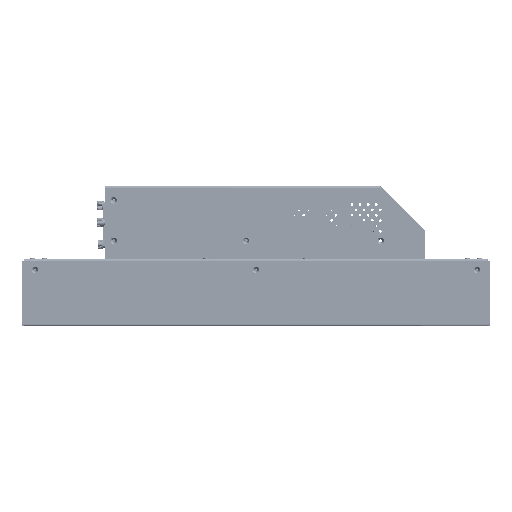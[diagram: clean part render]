
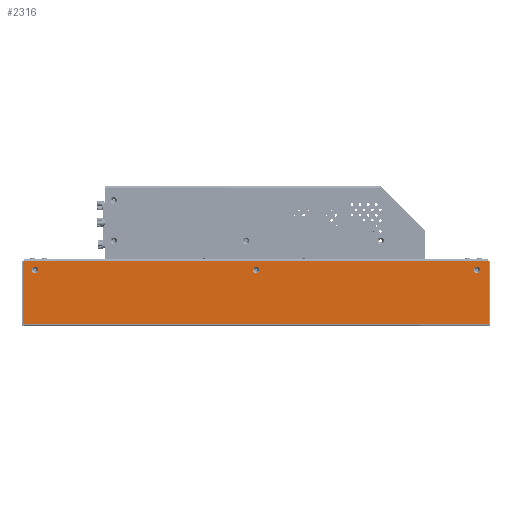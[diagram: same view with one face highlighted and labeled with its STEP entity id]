
A CAD part, front view. The second image highlights one B-rep face of the part: STEP entity #2316.
In plain terms, the highlighted planar face has unit normal (0, -1, 0).
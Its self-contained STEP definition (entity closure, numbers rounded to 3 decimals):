
#135=CARTESIAN_POINT('',(-259.25,-440.75,-34.));
#137=DIRECTION('',(1.,0.,0.));
#138=VECTOR('',#137,518.5);
#139=CARTESIAN_POINT('',(-259.25,-440.75,-34.));
#140=LINE('',#139,#138);
#141=CARTESIAN_POINT('',(259.25,-440.75,-34.));
#759=DIRECTION('',(0.,0.,-1.));
#760=VECTOR('',#759,70.5);
#761=CARTESIAN_POINT('',(259.25,-440.75,36.5));
#762=LINE('',#761,#760);
#763=CARTESIAN_POINT('',(-246.25,-440.75,26.5));
#764=DIRECTION('',(0.,-1.,0.));
#765=DIRECTION('',(1.,0.,0.));
#766=AXIS2_PLACEMENT_3D('',#763,#764,#765);
#768=CARTESIAN_POINT('',(-246.25,-440.75,26.5));
#769=DIRECTION('',(0.,-1.,0.));
#770=DIRECTION('',(-1.,0.,0.));
#771=AXIS2_PLACEMENT_3D('',#768,#769,#770);
#773=CARTESIAN_POINT('',(246.25,-440.75,26.5));
#774=DIRECTION('',(0.,-1.,0.));
#775=DIRECTION('',(1.,0.,0.));
#776=AXIS2_PLACEMENT_3D('',#773,#774,#775);
#778=CARTESIAN_POINT('',(246.25,-440.75,26.5));
#779=DIRECTION('',(0.,-1.,0.));
#780=DIRECTION('',(-1.,0.,0.));
#781=AXIS2_PLACEMENT_3D('',#778,#779,#780);
#783=CARTESIAN_POINT('',(0.,-440.75,26.5));
#784=DIRECTION('',(0.,-1.,0.));
#785=DIRECTION('',(1.,0.,0.));
#786=AXIS2_PLACEMENT_3D('',#783,#784,#785);
#788=CARTESIAN_POINT('',(0.,-440.75,26.5));
#789=DIRECTION('',(0.,-1.,0.));
#790=DIRECTION('',(-1.,0.,0.));
#791=AXIS2_PLACEMENT_3D('',#788,#789,#790);
#793=DIRECTION('',(0.,0.,-1.));
#794=VECTOR('',#793,70.5);
#795=CARTESIAN_POINT('',(-259.25,-440.75,36.5));
#796=LINE('',#795,#794);
#801=DIRECTION('',(-1.,0.,0.));
#802=VECTOR('',#801,518.5);
#803=CARTESIAN_POINT('',(259.25,-440.75,36.5));
#804=LINE('',#803,#802);
#949=VERTEX_POINT('',#141);
#952=VERTEX_POINT('',#135);
#1126=CARTESIAN_POINT('',(259.25,-440.75,36.5));
#1127=VERTEX_POINT('',#1126);
#1128=CARTESIAN_POINT('',(-259.25,-440.75,36.5));
#1129=VERTEX_POINT('',#1128);
#1130=CARTESIAN_POINT('',(-242.65,-440.75,26.5));
#1131=CARTESIAN_POINT('',(-249.85,-440.75,26.5));
#1132=VERTEX_POINT('',#1130);
#1133=VERTEX_POINT('',#1131);
#1134=CARTESIAN_POINT('',(249.85,-440.75,26.5));
#1135=CARTESIAN_POINT('',(242.65,-440.75,26.5));
#1136=VERTEX_POINT('',#1134);
#1137=VERTEX_POINT('',#1135);
#1138=CARTESIAN_POINT('',(3.6,-440.75,26.5));
#1139=CARTESIAN_POINT('',(-3.6,-440.75,26.5));
#1140=VERTEX_POINT('',#1138);
#1141=VERTEX_POINT('',#1139);
#2285=CARTESIAN_POINT('',(-260.75,-440.75,-36.5));
#2286=DIRECTION('',(0.,-1.,0.));
#2287=DIRECTION('',(1.,0.,0.));
#2288=AXIS2_PLACEMENT_3D('',#2285,#2286,#2287);
#2289=PLANE('',#2288);
#2290=ORIENTED_EDGE('',*,*,#1453,.F.);
#2292=ORIENTED_EDGE('',*,*,#2291,.F.);
#2294=ORIENTED_EDGE('',*,*,#2293,.F.);
#2295=ORIENTED_EDGE('',*,*,#2276,.T.);
#2296=EDGE_LOOP('',(#2290,#2292,#2294,#2295));
#2297=FACE_OUTER_BOUND('',#2296,.F.);
#2299=ORIENTED_EDGE('',*,*,#2298,.T.);
#2301=ORIENTED_EDGE('',*,*,#2300,.T.);
#2302=EDGE_LOOP('',(#2299,#2301));
#2303=FACE_BOUND('',#2302,.F.);
#2305=ORIENTED_EDGE('',*,*,#2304,.T.);
#2307=ORIENTED_EDGE('',*,*,#2306,.T.);
#2308=EDGE_LOOP('',(#2305,#2307));
#2309=FACE_BOUND('',#2308,.F.);
#2311=ORIENTED_EDGE('',*,*,#2310,.T.);
#2313=ORIENTED_EDGE('',*,*,#2312,.T.);
#2314=EDGE_LOOP('',(#2311,#2313));
#2315=FACE_BOUND('',#2314,.F.);
#2316=ADVANCED_FACE('',(#2297,#2303,#2309,#2315),#2289,.T.);
#767=CIRCLE('',#766,3.6);
#772=CIRCLE('',#771,3.6);
#777=CIRCLE('',#776,3.6);
#782=CIRCLE('',#781,3.6);
#787=CIRCLE('',#786,3.6);
#792=CIRCLE('',#791,3.6);
#1453=EDGE_CURVE('',#952,#949,#140,.T.);
#2276=EDGE_CURVE('',#1127,#949,#762,.T.);
#2291=EDGE_CURVE('',#1129,#952,#796,.T.);
#2293=EDGE_CURVE('',#1127,#1129,#804,.T.);
#2298=EDGE_CURVE('',#1132,#1133,#767,.T.);
#2300=EDGE_CURVE('',#1133,#1132,#772,.T.);
#2304=EDGE_CURVE('',#1136,#1137,#777,.T.);
#2306=EDGE_CURVE('',#1137,#1136,#782,.T.);
#2310=EDGE_CURVE('',#1140,#1141,#787,.T.);
#2312=EDGE_CURVE('',#1141,#1140,#792,.T.);
